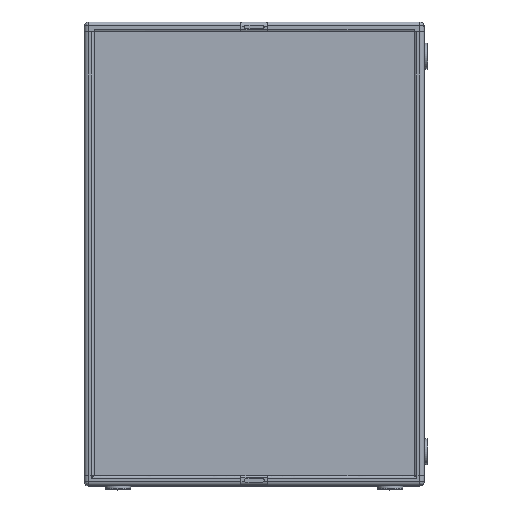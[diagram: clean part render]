
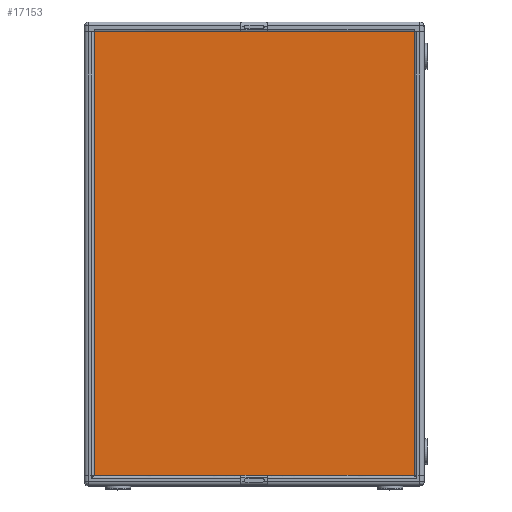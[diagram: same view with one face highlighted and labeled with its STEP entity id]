
A CAD part, top view. The second image highlights one B-rep face of the part: STEP entity #17153.
In plain terms, the highlighted planar face has unit normal (0, 0, 1).
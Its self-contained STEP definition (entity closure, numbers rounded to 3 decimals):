
#44 = AXIS2_PLACEMENT_3D ( 'NONE', #13658, #14084, #16312 ) ;
#9587 = EDGE_LOOP ( 'NONE', ( #10740, #10741, #10742, #10743 ) ) ;
#10740 = ORIENTED_EDGE ( 'NONE', *, *, #12667, .T. ) ;
#10741 = ORIENTED_EDGE ( 'NONE', *, *, #12671, .T. ) ;
#10742 = ORIENTED_EDGE ( 'NONE', *, *, #12674, .T. ) ;
#10743 = ORIENTED_EDGE ( 'NONE', *, *, #12676, .T. ) ;
#12667 = EDGE_CURVE ( 'NONE', #19089, #19103, #26540, .T. ) ;
#12671 = EDGE_CURVE ( 'NONE', #19103, #19102, #26548, .T. ) ;
#12674 = EDGE_CURVE ( 'NONE', #19102, #19085, #26554, .T. ) ;
#12676 = EDGE_CURVE ( 'NONE', #19085, #19089, #26558, .T. ) ;
#13658 = CARTESIAN_POINT ( 'NONE',  ( -344.347, -54.125, 267.387 ) ) ;
#13970 = DIRECTION ( 'NONE',  ( 0., -1., 0. ) ) ;
#13973 = CARTESIAN_POINT ( 'NONE',  ( -344.347, 613.875, 267.387 ) ) ;
#14084 = DIRECTION ( 'NONE',  ( 0., 0., 1. ) ) ;
#15008 = DIRECTION ( 'NONE',  ( 1., 0., 0. ) ) ;
#15010 = CARTESIAN_POINT ( 'NONE',  ( -344.347, -54.125, 267.387 ) ) ;
#15028 = CARTESIAN_POINT ( 'NONE',  ( 137.653, 613.875, 267.387 ) ) ;
#15033 = DIRECTION ( 'NONE',  ( 0., 1., 0. ) ) ;
#15040 = CARTESIAN_POINT ( 'NONE',  ( -344.347, 613.875, 267.387 ) ) ;
#15046 = DIRECTION ( 'NONE',  ( -1., 0., 0. ) ) ;
#15867 = PLANE ( 'NONE',  #44 ) ;
#16312 = DIRECTION ( 'NONE',  ( 1., 0., 0. ) ) ;
#17153 = ADVANCED_FACE ( 'NONE', ( #27694 ), #15867, .T. ) ;
#19085 = VERTEX_POINT ( 'NONE', #29178 ) ;
#19089 = VERTEX_POINT ( 'NONE', #29144 ) ;
#19102 = VERTEX_POINT ( 'NONE', #29109 ) ;
#19103 = VERTEX_POINT ( 'NONE', #29111 ) ;
#26540 = LINE ( 'NONE', #13973, #26541 ) ;
#26541 = VECTOR ( 'NONE', #13970, 1000. ) ;
#26548 = LINE ( 'NONE', #15010, #26549 ) ;
#26549 = VECTOR ( 'NONE', #15008, 1000. ) ;
#26554 = LINE ( 'NONE', #15028, #26555 ) ;
#26555 = VECTOR ( 'NONE', #15033, 1000. ) ;
#26558 = LINE ( 'NONE', #15040, #26559 ) ;
#26559 = VECTOR ( 'NONE', #15046, 1000. ) ;
#27694 = FACE_OUTER_BOUND ( 'NONE', #9587, .T. ) ;
#29109 = CARTESIAN_POINT ( 'NONE',  ( 137.653, -54.125, 267.387 ) ) ;
#29111 = CARTESIAN_POINT ( 'NONE',  ( -344.347, -54.125, 267.387 ) ) ;
#29144 = CARTESIAN_POINT ( 'NONE',  ( -344.347, 613.875, 267.387 ) ) ;
#29178 = CARTESIAN_POINT ( 'NONE',  ( 137.653, 613.875, 267.387 ) ) ;
